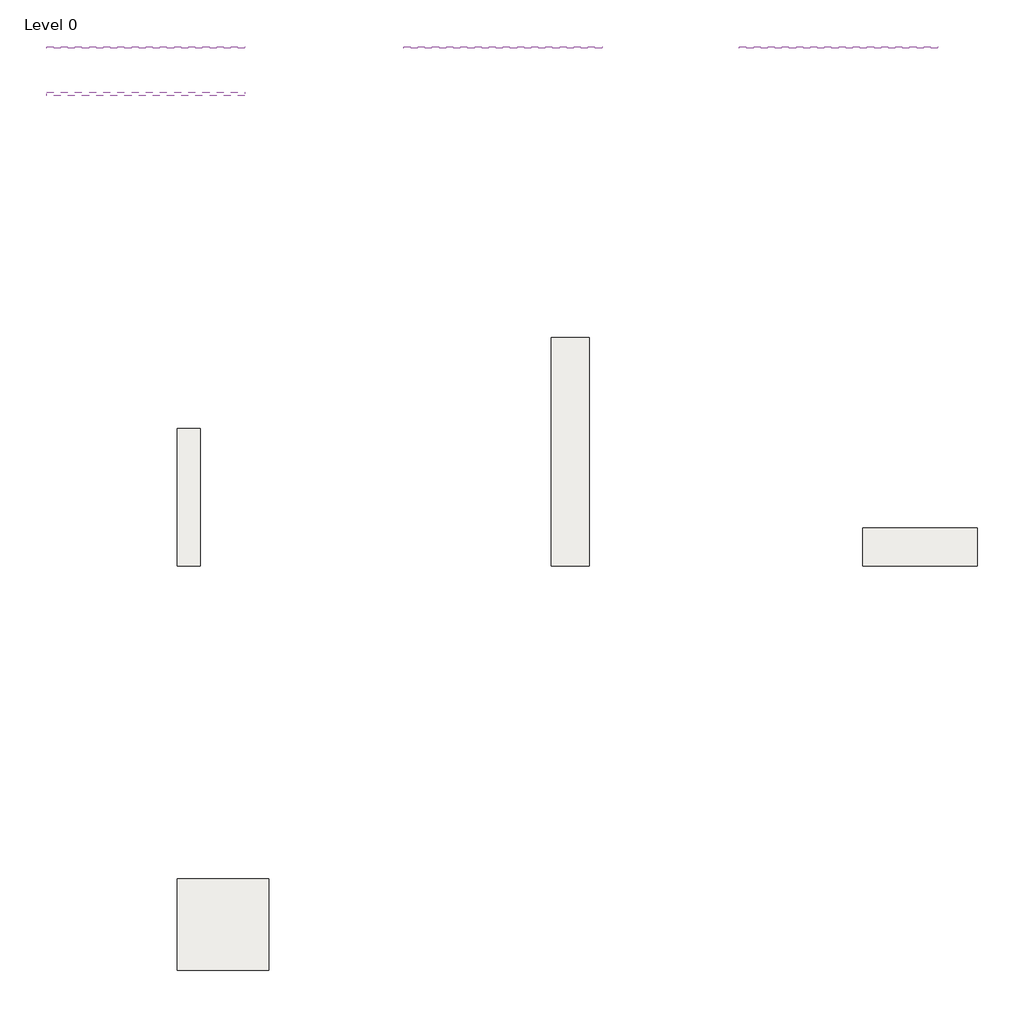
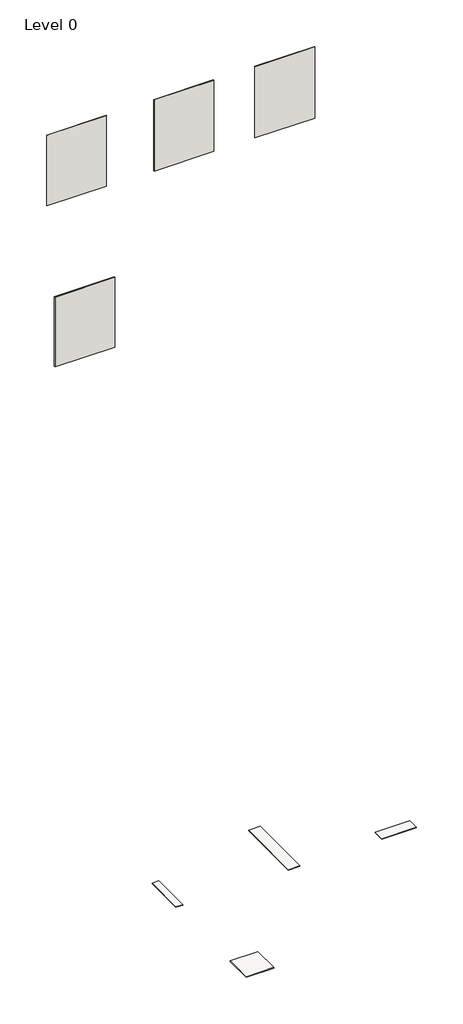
# One storey: 4 slabs, 4 walls.
"""IFC4 building model written with IfcOpenShell, lengths in millimetres."""

from ifc_helpers import new_model, si_unit, frame, origin, place, context, project, spatial, polyline, outline, extrude, element, save

model = new_model("IFC4")

# Units and contexts
model_context = context("Model", 3, world=origin())
ifc_project = project(units=[si_unit("LENGTHUNIT", "METRE", prefix="MILLI")], contexts=[model_context])

# Site, building, storey
site = spatial("IfcSite", under=ifc_project)
building = spatial("IfcBuilding", under=site)
storey = spatial("IfcBuildingStorey", under=building, Name="Level 0", Elevation=0.0)

# Slabs
placement = place(None, origin())
element("IfcSlab", 1, ObjectType="Floor_Tiles_Refin-Larix-Shade-15x90 OB53", at=placement, inside=storey, context=model_context, shape_type="SweptSolid", body=[
    extrude(outline(polyline([(6924.3752062, 5639.4623743), (6924.3752062, 4739.4623743), (6774.3752062, 4739.4623743), (6774.3752062, 5639.4623743), (6924.3752062, 5639.4623743)])), frame((0.0, 0.0, -10.0), z_axis=(0.0, 0.0, 1.0), x_axis=(1.0, 0.0, 0.0)), (0.0, 0.0, 1.0), 10.0),
])
element("IfcSlab", 2, ObjectType="Floor_Tiles_Refin-Larix-Shade-25x150 LE11", at=placement, inside=storey, context=model_context, shape_type="SweptSolid", body=[
    extrude(outline(polyline([(9474.3752062, 6238.4192064), (9474.3752062, 4738.4192064), (9224.3752062, 4738.4192064), (9224.3752062, 6238.4192064), (9474.3752062, 6238.4192064)])), frame((0.0, 0.0, -10.0), z_axis=(0.0, 0.0, 1.0), x_axis=(1.0, 0.0, 0.0)), (0.0, 0.0, 1.0), 10.0),
])
element("IfcSlab", 3, ObjectType="Floor_Tiles_Refin-Larix-Shade-Muretto-25x75 LF54", at=placement, inside=storey, context=model_context, shape_type="SweptSolid", body=[
    extrude(outline(polyline([(12017.3924055, 4988.4192064), (12017.3924055, 4738.4192064), (11267.3924055, 4738.4192064), (11267.3924055, 4988.4192064), (12017.3924055, 4988.4192064)])), frame((0.0, 0.0, -10.0), z_axis=(0.0, 0.0, 1.0), x_axis=(1.0, 0.0, 0.0)), (0.0, 0.0, 1.0), 10.0),
])
element("IfcSlab", 4, ObjectType="Floor_Tiles_Refin-Larix-Shade-OUT2.0-60x60 LQ03", at=placement, inside=storey, context=model_context, shape_type="SweptSolid", body=[
    extrude(outline(polyline([(7374.3752062, 2689.4623743), (7374.3752062, 2089.4623743), (6774.3752062, 2089.4623743), (6774.3752062, 2689.4623743), (7374.3752062, 2689.4623743)])), frame((0.0, 0.0, -21.0), z_axis=(0.0, 0.0, 1.0), x_axis=(1.0, 0.0, 0.0)), (0.0, 0.0, 1.0), 21.0),
])

# Walls
element("IfcWall", 5, ObjectType="Wall_Tiles_Refin-Larix-Shade-25x150 LE11", at=placement, inside=storey, context=model_context, shape_type="SweptSolid", body=[
    extrude(outline(polyline([(9557.3752062, 8132.3838631), (8257.3752062, 8132.3838631), (8257.3752062, 8142.3838631), (9557.3752062, 8142.3838631), (9557.3752062, 8132.3838631)])), frame((0.0, 0.0, 14387.6770443), z_axis=(0.0, 0.0, 1.0), x_axis=(1.0, 0.0, 0.0)), (0.0, 0.0, 1.0), 1641.7417352),
])
element("IfcWall", 6, ObjectType="Wall_Tiles_Refin-Larix-Shade-Muretto-25x75 LF54", at=placement, inside=storey, context=model_context, shape_type="SweptSolid", body=[
    extrude(outline(polyline([(11757.3752062, 8132.3838631), (10457.3752062, 8132.3838631), (10457.3752062, 8142.3838631), (11757.3752062, 8142.3838631), (11757.3752062, 8132.3838631)])), frame((0.0, 0.0, 14387.6770443), z_axis=(0.0, 0.0, 1.0), x_axis=(1.0, 0.0, 0.0)), (0.0, 0.0, 1.0), 1641.7417352),
])
element("IfcWall", 7, ObjectType="Wall_Tiles_Refin-Larix-Shade-15x90 OB53", at=placement, inside=storey, context=model_context, shape_type="SweptSolid", body=[
    extrude(outline(polyline([(7217.3752062, 8132.3838631), (5917.3752062, 8132.3838631), (5917.3752062, 8142.3838631), (7217.3752062, 8142.3838631), (7217.3752062, 8132.3838631)])), frame((0.0, 0.0, 14403.7267346), z_axis=(0.0, 0.0, 1.0), x_axis=(1.0, 0.0, 0.0)), (0.0, 0.0, 1.0), 1625.692045),
])
element("IfcWall", 8, ObjectType="Wall_Tiles_Refin-Larix-Shade-OUT2.0-60x60 LQ03", at=placement, inside=storey, context=model_context, shape_type="SweptSolid", body=[
    extrude(outline(polyline([(7217.3752062, 7821.8838631), (5917.3752062, 7821.8838631), (5917.3752062, 7842.8838631), (7217.3752062, 7842.8838631), (7217.3752062, 7821.8838631)])), frame((0.0, 0.0, 10881.6087573), z_axis=(0.0, 0.0, 1.0), x_axis=(1.0, 0.0, 0.0)), (0.0, 0.0, 1.0), 1607.0032016),
])

save(model, "model.ifc")
